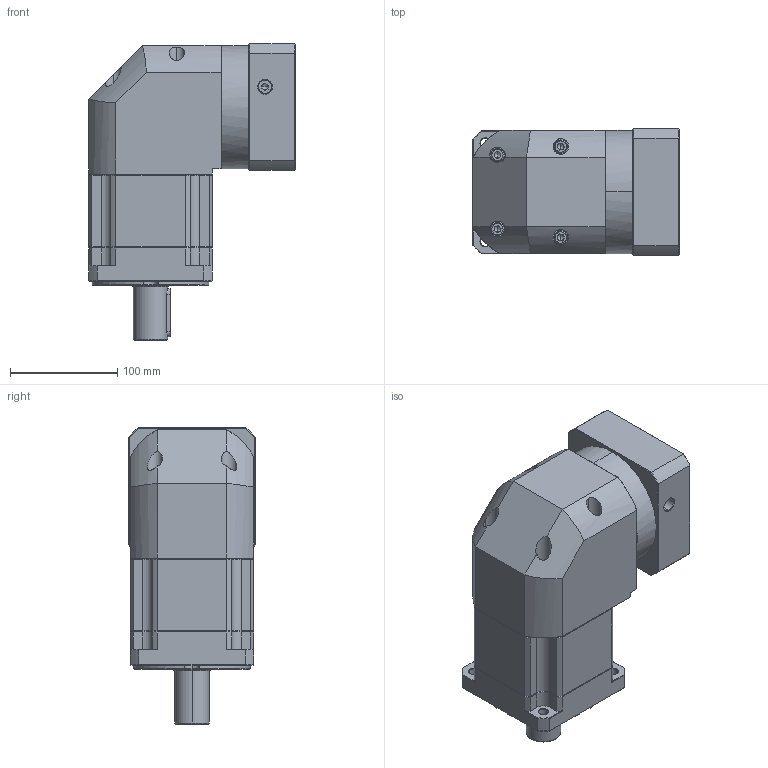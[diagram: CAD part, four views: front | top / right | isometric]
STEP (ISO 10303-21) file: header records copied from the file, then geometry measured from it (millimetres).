
FILE_DESCRIPTION (( 'STEP AP214' ), '1' );
FILE_NAME ('ZBR115A-D32-L2-P2-24-95-130-M8.step', '2023-08-26T12:39:22', ( '' ), ( '' ), 'SwSTEP 2.0', 'SolidWorks 2016', '' );
FILE_SCHEMA (( 'AUTOMOTIVE_DESIGN' ));
Length unit declared in the file: millimetre
Products named in the file (1): ZBR115A-D32-L2-P2-24-95-130-M8
Bounding box: 192.4 x 118 x 276.5 mm (x, y, z)
Volume: 3302848.3 mm3; surface area: 263890.8 mm2
Topology: 6 solids, 6 shells, 2380 faces, 6243 edges, 3967 vertices
Faces by surface type: plane 1139, cylinder 439, bspline 424, cone 370, torus 8
Entity records: 128382 total; most frequent: CARTESIAN_POINT 47176, ORIENTED_EDGE 12426, DIRECTION 9802, EDGE_CURVE 6213, LINE 3992, VECTOR 3992, VERTEX_POINT 3967, AXIS2_PLACEMENT_3D 2905
